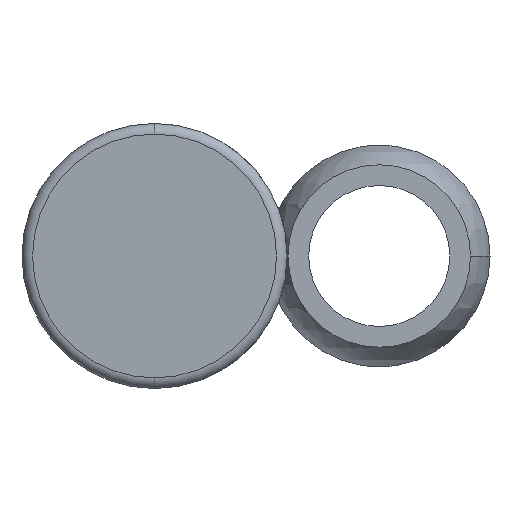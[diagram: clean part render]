
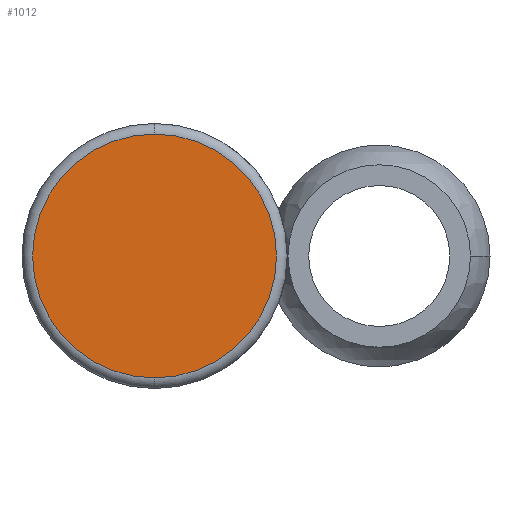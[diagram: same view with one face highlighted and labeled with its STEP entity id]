
A CAD part, front view. The second image highlights one B-rep face of the part: STEP entity #1012.
In plain terms, the highlighted planar face has unit normal (0, -1, 0).
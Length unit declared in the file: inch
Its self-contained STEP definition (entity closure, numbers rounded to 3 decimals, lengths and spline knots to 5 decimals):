
#5 = AXIS2_PLACEMENT_3D ( 'NONE', #1331, #1018, #806 ) ;
#54 = FACE_OUTER_BOUND ( 'NONE', #1163, .T. ) ;
#58 = DIRECTION ( 'NONE',  ( 0., -1., 0. ) ) ;
#134 = CIRCLE ( 'NONE', #1021, 0.34402 ) ;
#148 = DIRECTION ( 'NONE',  ( 0., -1., 0. ) ) ;
#272 = CIRCLE ( 'NONE', #349, 0.34402 ) ;
#338 = CARTESIAN_POINT ( 'NONE',  ( 0., -1.26, 0.34402 ) ) ;
#349 = AXIS2_PLACEMENT_3D ( 'NONE', #579, #58, #1001 ) ;
#373 = EDGE_CURVE ( 'NONE', #814, #1179, #272, .T. ) ;
#497 = CARTESIAN_POINT ( 'NONE',  ( 0., -1.26, -0.34402 ) ) ;
#549 = ORIENTED_EDGE ( 'NONE', *, *, #373, .T. ) ;
#579 = CARTESIAN_POINT ( 'NONE',  ( 0., -1.26, 0. ) ) ;
#666 = DIRECTION ( 'NONE',  ( 0., 0., 1. ) ) ;
#806 = DIRECTION ( 'NONE',  ( 0., 0., 1. ) ) ;
#814 = VERTEX_POINT ( 'NONE', #338 ) ;
#1001 = DIRECTION ( 'NONE',  ( 0., 0., 1. ) ) ;
#1012 = ADVANCED_FACE ( 'NONE', ( #54 ), #1221, .F. ) ;
#1018 = DIRECTION ( 'NONE',  ( 0., 1., 0. ) ) ;
#1021 = AXIS2_PLACEMENT_3D ( 'NONE', #1079, #148, #666 ) ;
#1079 = CARTESIAN_POINT ( 'NONE',  ( 0., -1.26, 0. ) ) ;
#1137 = ORIENTED_EDGE ( 'NONE', *, *, #1242, .T. ) ;
#1163 = EDGE_LOOP ( 'NONE', ( #549, #1137 ) ) ;
#1179 = VERTEX_POINT ( 'NONE', #497 ) ;
#1221 = PLANE ( 'NONE',  #5 ) ;
#1242 = EDGE_CURVE ( 'NONE', #1179, #814, #134, .T. ) ;
#1331 = CARTESIAN_POINT ( 'NONE',  ( 0., -1.26, 0. ) ) ;
